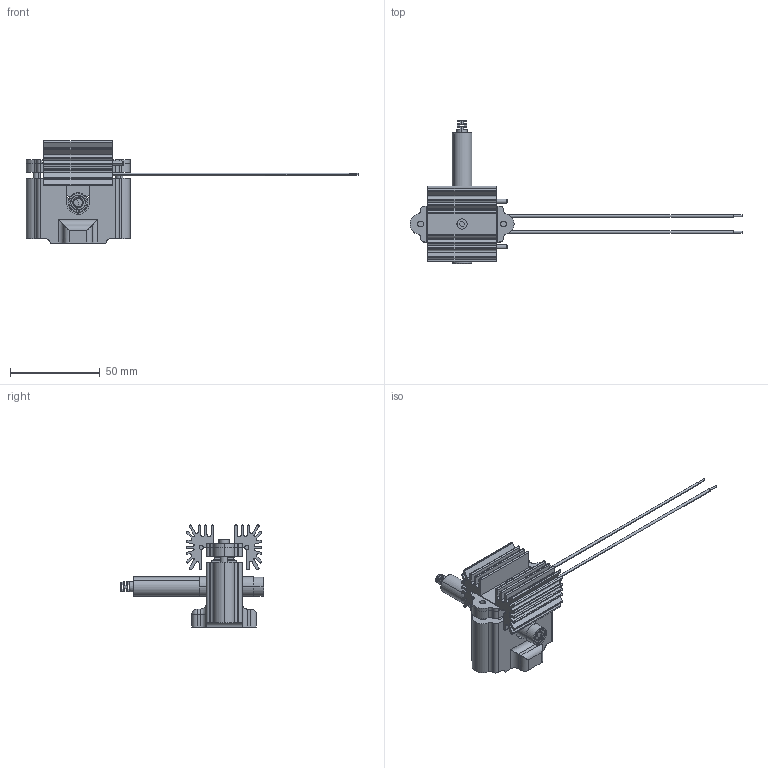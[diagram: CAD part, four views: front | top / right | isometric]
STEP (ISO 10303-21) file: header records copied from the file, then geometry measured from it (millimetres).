
FILE_DESCRIPTION (( 'STEP AP214' ), '1' );
FILE_NAME ('2022-05 - PELTIER ASSY.STEP', '2023-01-14T15:00:15', ( '' ), ( '' ), 'SwSTEP 2.0', 'SolidWorks 2020', '' );
FILE_SCHEMA (( 'AUTOMOTIVE_DESIGN' ));
Length unit declared in the file: millimetre
Products named in the file (11): DIN912 M4x25; CPS532; DIN912 M3x6; 2022-04 - PELTIER CLAMP; 2022-06 - PELTIER BOX; 2022-05 - PELTIER ASSY; 2022-07 - PELTIER HEATSINK; DIN912 M4x16; ohmite_RA-T2X-38E.stp; SS3MN3; TECD2S
Assembly tree (11 placements, depth 2):
  2022-05 - PELTIER ASSY
    2022-04 - PELTIER CLAMP
    TECD2S
    CPS532
    DIN912 M4x16
    2022-06 - PELTIER BOX
    2022-07 - PELTIER HEATSINK
    DIN912 M4x25  x2
    SS3MN3
    DIN912 M3x6
    ohmite_RA-T2X-38E.stp
Bounding box: 185 x 79.75 x 56.85 mm (x, y, z)
Volume: 56540.9 mm3; surface area: 43362.4 mm2
Topology: 13 solids, 20 shells, 707 faces, 1968 edges, 1318 vertices
Faces by surface type: plane 329, cylinder 292, bspline 44, cone 24, torus 16, sphere 2
Entity records: 29116 total; most frequent: CARTESIAN_POINT 8733, ORIENTED_EDGE 3798, DIRECTION 3692, EDGE_CURVE 1926, AXIS2_PLACEMENT_3D 1300, VERTEX_POINT 1298, LINE 1092, VECTOR 1092
